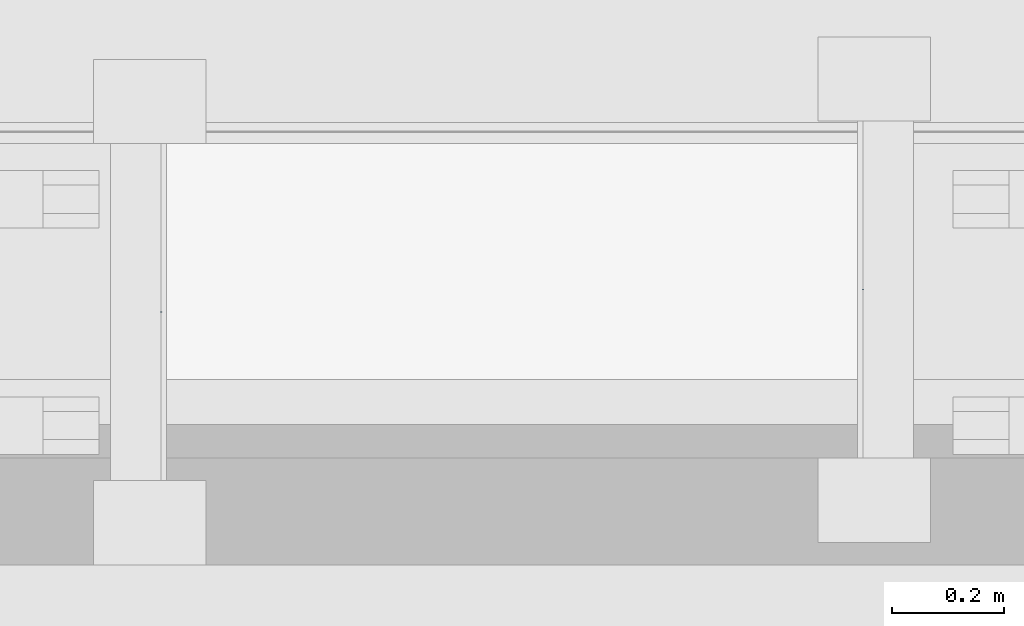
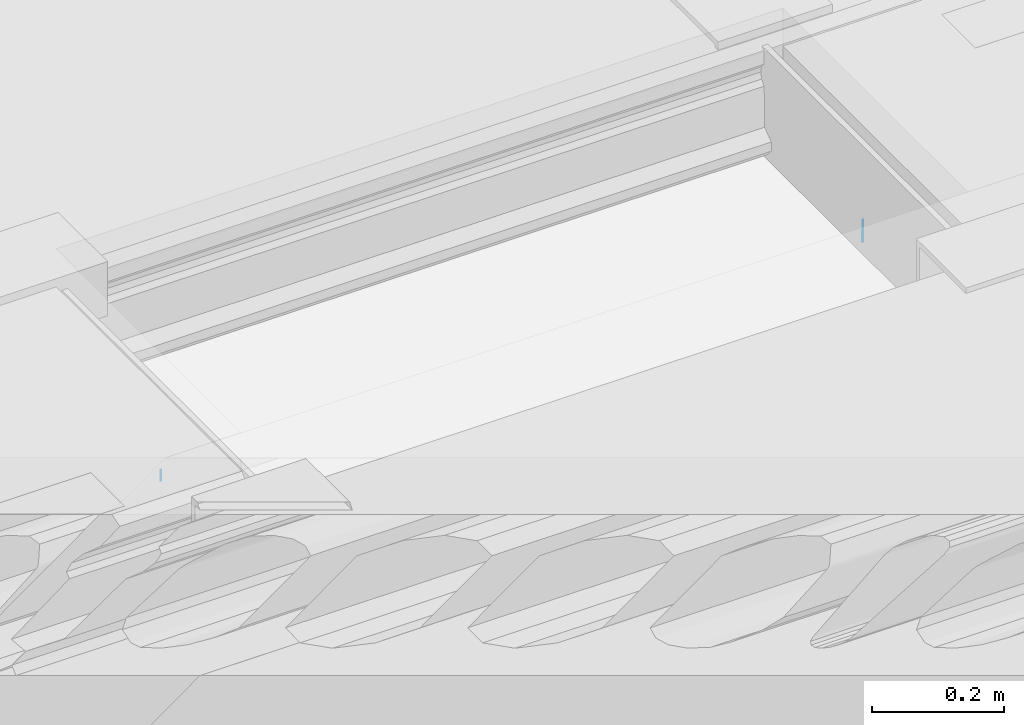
# One storey, part 46 of 230: 3 beams.
"""IFC4X3_ADD2 building model written with IfcOpenShell, lengths in millimetres."""

import ifcopenshell
import ifcopenshell.guid

model = None  # the IFC model being written
_history = None  # IfcOwnerHistory: only IFC2X3 demands one
_inside = {}  # id of a spatial element -> (the spatial element, [elements in it])
_under = {}  # id of a project, library or spatial element -> (it, [spatial elements below it])
_declared = {}  # id of a project -> (the project, [libraries it declares])
_typed = {}  # id of a type object -> (the type object, [elements of that type])
_made_of = {}  # id of a material, layer set ... -> (it, [elements and type objects made of it])


def new_model(schema):
    """Start an empty IFC model of exactly this schema.

    Asked for "IFC4X3", IfcOpenShell would pick the latest addendum, in which some entities
    have other attributes; the version numbers below select the first issue.
    IFC2X3 requires an IfcOwnerHistory on every rooted entity: one is made here for all.
    """
    global model, _history
    if schema == "IFC4X3":
        model = ifcopenshell.file(schema_version=(4, 3, 0, 0))
    else:
        model = ifcopenshell.file(schema=schema)
    _inside.clear()
    _under.clear()
    _declared.clear()
    _typed.clear()
    _made_of.clear()
    _history = None
    if model.schema == "IFC2X3":
        org = make("IfcOrganization", Name="unknown")
        user = make(
            "IfcPersonAndOrganization",
            ThePerson=make("IfcPerson", FamilyName="unknown"),
            TheOrganization=org,
        )
        app = make(
            "IfcApplication",
            ApplicationDeveloper=org,
            Version="unknown",
            ApplicationFullName="unknown",
            ApplicationIdentifier="unknown",
        )
        _history = make(
            "IfcOwnerHistory",
            OwningUser=user,
            OwningApplication=app,
            ChangeAction="ADDED",
            CreationDate=0,
        )
    return model


def make(cls, **values):
    """One entity of the class cls with the attributes given. An attribute that is None is left unset."""
    return model.create_entity(
        cls, **{name: value for name, value in values.items() if value is not None}
    )


def rooted(cls, **values):
    """An entity with a GlobalId (a new one), such as an element, a storey or a relation."""
    return make(cls, GlobalId=ifcopenshell.guid.new(), OwnerHistory=_history, **values)


def si_unit(unit_type, name, prefix=None):
    """IfcSIUnit, for example si_unit("LENGTHUNIT", "METRE", prefix="MILLI")."""
    return make("IfcSIUnit", UnitType=unit_type, Prefix=prefix, Name=name)


def assignment(units):
    """IfcUnitAssignment: the units of a project."""
    return None if units is None else make("IfcUnitAssignment", Units=units)


def point(xyz):
    """IfcCartesianPoint."""
    return None if xyz is None else make("IfcCartesianPoint", Coordinates=xyz)


def direction(xyz):
    """IfcDirection."""
    return None if xyz is None else make("IfcDirection", DirectionRatios=xyz)


def frame(location, z_axis=None, x_axis=None):
    """IfcAxis2Placement3D, a coordinate frame: its origin and axes. An axis left out is left unset."""
    return make(
        "IfcAxis2Placement3D",
        Location=point(location),
        Axis=direction(z_axis),
        RefDirection=direction(x_axis),
    )


def frame_2d(location, x_axis=None):
    """IfcAxis2Placement2D, a coordinate frame in the plane: its origin and x axis."""
    return make(
        "IfcAxis2Placement2D", Location=point(location), RefDirection=direction(x_axis)
    )


def origin_with_axes():
    """The frame at (0, 0, 0) with the z axis (0, 0, 1) and the x axis (1, 0, 0) written out."""
    return frame((0.0, 0.0, 0.0), z_axis=(0.0, 0.0, 1.0), x_axis=(1.0, 0.0, 0.0))


def place(relative_to, where):
    """IfcLocalPlacement: puts the frame where relative to a parent placement (None: the world)."""
    return make(
        "IfcLocalPlacement", PlacementRelTo=relative_to, RelativePlacement=where
    )


def context(
    kind, dimensions, precision=None, world=None, true_north=None, identifier=None
):
    """IfcGeometricRepresentationContext, for example the 3D "Model" context."""
    return make(
        "IfcGeometricRepresentationContext",
        ContextIdentifier=identifier,
        ContextType=kind,
        CoordinateSpaceDimension=dimensions,
        Precision=precision,
        WorldCoordinateSystem=world,
        TrueNorth=true_north,
    )


def subcontext(parent, identifier, kind, view, scale=None):
    """IfcGeometricRepresentationSubContext, for example "Body" below "Model"."""
    return make(
        "IfcGeometricRepresentationSubContext",
        ContextIdentifier=identifier,
        ContextType=kind,
        ParentContext=parent,
        TargetScale=scale,
        TargetView=view,
    )


def project(units=None, contexts=None):
    """IfcProject with its units and contexts."""
    return rooted(
        "IfcProject",
        Name="project",
        RepresentationContexts=contexts,
        UnitsInContext=assignment(units),
    )


def spatial(cls, under=None, at=None, **own):
    """A site, building, storey or space (cls), placed at a placement, below another one or the project."""
    s = rooted(cls, ObjectPlacement=at, **own)
    if under is not None:
        _under.setdefault(under.id(), (under, []))[1].append(s)
    return s


def profile(cls, at=None, kind="AREA", **sizes):
    """A parametric profile (cls). Its sizes go by their IFC names, for example OverallWidth=200.0."""
    return make(cls, ProfileType=kind, Position=at, **sizes)


def rectangle(**sizes):
    """IfcRectangleProfileDef."""
    return profile("IfcRectangleProfileDef", **sizes)


def extrude(swept, where, along, depth):
    """IfcExtrudedAreaSolid: the profile swept, set in the frame where, extruded along a direction by depth."""
    return make(
        "IfcExtrudedAreaSolid",
        SweptArea=swept,
        Position=where,
        ExtrudedDirection=direction(along),
        Depth=depth,
    )


def shape(context_of_items, identifier, shape_type, items):
    """IfcShapeRepresentation: the items that make up one representation, for example the "Body"."""
    return make(
        "IfcShapeRepresentation",
        ContextOfItems=context_of_items,
        RepresentationIdentifier=identifier,
        RepresentationType=shape_type,
        Items=items,
    )


def material(Name=None, Category=None):
    """IfcMaterial."""
    return make("IfcMaterial", Name=Name, Category=Category)


def made_of(thing, what):
    """Note that an element or type object is made of a material, layer set ...; save() writes the relation."""
    if what is not None:
        _made_of.setdefault(what.id(), (what, []))[1].append(thing)
    return thing


def element(
    cls,
    number,
    at=None,
    inside=None,
    cuts=None,
    type_object=None,
    material=None,
    context=None,
    identifier="Body",
    shape_type=None,
    held_by="IfcProductDefinitionShape",
    body=None,
    shapes=None,
    **own,
):
    """One element of the class cls, such as IfcWall. Its Tag is "e" and its number.

    at: its placement. inside: the storey or other place that contains it. cuts: it is an
    opening in that element (IfcRelVoidsElement). A single representation is given by context,
    identifier, shape_type and body (its items); several are given by shapes. held_by: the class
    of the entity that holds the representations. save() writes the other relations.
    """
    e = rooted(cls, Tag="e%d" % number, ObjectPlacement=at, **own)
    if body is not None:
        shapes = [shape(context, identifier, shape_type, body)]
    if shapes is not None:
        e.Representation = make(held_by, Representations=shapes)
    if inside is not None:
        _inside.setdefault(inside.id(), (inside, []))[1].append(e)
    if cuts is not None:
        rooted(
            "IfcRelVoidsElement", RelatingBuildingElement=cuts, RelatedOpeningElement=e
        )
    if type_object is not None:
        _typed.setdefault(type_object.id(), (type_object, []))[1].append(e)
    return made_of(e, material)


def aggregate(whole, parts):
    """IfcRelAggregates: a whole, such as a stair, and the parts it consists of."""
    return rooted("IfcRelAggregates", RelatingObject=whole, RelatedObjects=parts)


def save(model, path):
    """Write the relations noted so far, then the file.

    IfcRelAggregates (storeys below a building ...), IfcRelContainedInSpatialStructure (elements
    in a storey), IfcRelDefinesByType, IfcRelAssociatesMaterial and IfcRelDeclares: one each for
    every whole, place, type object, material and project.
    """
    for whole, parts in _under.values():
        aggregate(whole, parts)
    for where, things in _inside.values():
        rooted(
            "IfcRelContainedInSpatialStructure",
            RelatedElements=things,
            RelatingStructure=where,
        )
    for kind, things in _typed.values():
        rooted("IfcRelDefinesByType", RelatedObjects=things, RelatingType=kind)
    for what, things in _made_of.values():
        rooted("IfcRelAssociatesMaterial", RelatedObjects=things, RelatingMaterial=what)
    for by, libraries in _declared.values():
        rooted("IfcRelDeclares", RelatingContext=by, RelatedDefinitions=libraries)
    model.write(path)


model = new_model("IFC4X3_ADD2")

# Units and contexts
model_context = context("Model", 3, precision=1e-05, world=origin_with_axes(), true_north=direction((0.0, 1.0)))
body_context = subcontext(model_context, "Body", "Model", "MODEL_VIEW")
ifc_project = project(units=[si_unit("LENGTHUNIT", "METRE", prefix="MILLI"), si_unit("AREAUNIT", "SQUARE_METRE"), si_unit("VOLUMEUNIT", "CUBIC_METRE"), si_unit("PLANEANGLEUNIT", "RADIAN"), si_unit("TIMEUNIT", "SECOND"), si_unit("MASSUNIT", "GRAM")], contexts=[model_context])

# Site, building, storey
site_placement = place(None, origin_with_axes())
site = spatial("IfcSite", under=ifc_project, at=site_placement, Name="Site", CompositionType="ELEMENT")
building_placement = place(site_placement, origin_with_axes())
building = spatial("IfcBuilding", under=site, at=building_placement, Name="IFC Building Story")
storey_placement = place(building_placement, origin_with_axes())
storey = spatial("IfcBuildingStorey", under=building, at=storey_placement, Name="ETAGE 00 (0)", Elevation=0.0)

# Beams
ifc_material_1 = material(Name="STEEL/Accessory_invisible")
beam_1_placement = place(storey_placement, frame((42826.6896207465, 660.0, 4030.0), z_axis=(-1.0, 0.0, 0.0), x_axis=(0.0, 0.0, 1.0)))
element("IfcBeam", 1, at=beam_1_placement, inside=storey, material=ifc_material_1, Name="ZW1", ObjectType="1*1", context=body_context, shape_type="SweptSolid", body=[
    extrude(rectangle(XDim=19.9999999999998, YDim=1.0, at=frame_2d((0.0, 5.95523630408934e-12), x_axis=(1.0, 0.0))), origin_with_axes(), (0.0, 0.0, 1.0), 1.0),
])
ifc_material_2 = material(Name="STEEL/Accessory")
beam_2_placement = place(storey_placement, frame((44076.1896207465, 699.9979999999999, 4010.0), z_axis=(-1.0, 0.0, 0.0), x_axis=(0.0, 0.0, 1.0)))
element("IfcBeam", 2, at=beam_2_placement, inside=storey, material=ifc_material_2, Name="RAV200", ObjectType="1*1", context=body_context, shape_type="SweptSolid", body=[
    extrude(rectangle(XDim=19.9999999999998, YDim=1.0, at=frame_2d((0.0, 5.95523630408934e-12), x_axis=(1.0, 0.0))), origin_with_axes(), (0.0, 0.0, 1.0), 1.0),
])
beam_3_placement = place(storey_placement, frame((44076.6896207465, 699.9979999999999, 4030.0), z_axis=(-1.0, 0.0, 0.0), x_axis=(0.0, 0.0, 1.0)))
element("IfcBeam", 3, at=beam_3_placement, inside=storey, material=ifc_material_1, Name="ZW1", ObjectType="1*1", context=body_context, shape_type="SweptSolid", body=[
    extrude(rectangle(XDim=19.9999999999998, YDim=1.0, at=frame_2d((0.0, 5.95523630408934e-12), x_axis=(1.0, 0.0))), origin_with_axes(), (0.0, 0.0, 1.0), 1.0),
])

save(model, "model.ifc")
